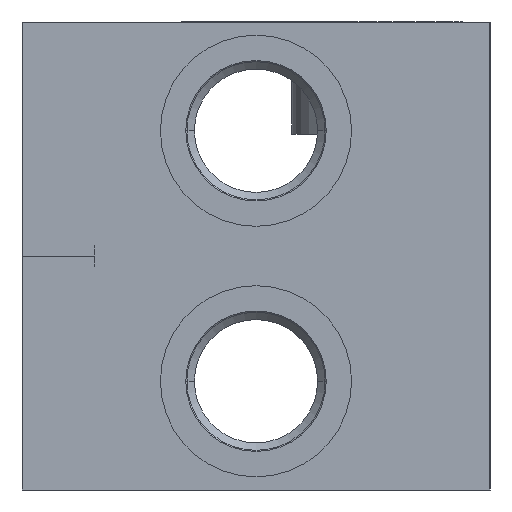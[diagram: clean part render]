
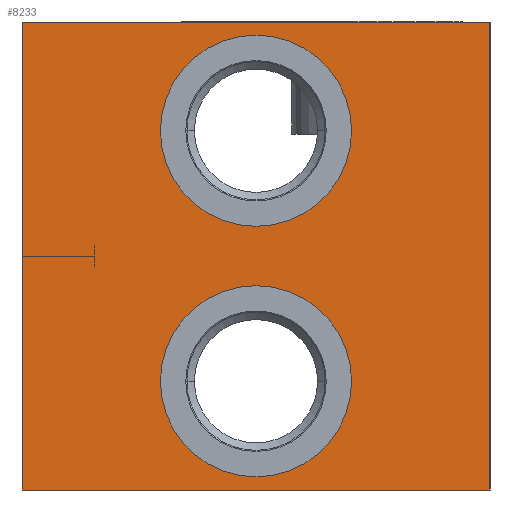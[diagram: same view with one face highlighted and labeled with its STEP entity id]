
A CAD part, left-side view. The second image highlights one B-rep face of the part: STEP entity #8233.
In plain terms, the highlighted planar face has unit normal (-1, 0, 0).
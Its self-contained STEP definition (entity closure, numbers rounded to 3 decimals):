
#30=DIRECTION('',(0.,-1.,0.));
#31=VECTOR('',#30,71.);
#32=CARTESIAN_POINT('',(0.,71.,0.));
#33=LINE('',#32,#31);
#275=DIRECTION('',(0.,0.,-1.));
#276=VECTOR('',#275,71.);
#277=CARTESIAN_POINT('',(0.,0.,0.));
#278=LINE('',#277,#276);
#1742=DIRECTION('',(0.,0.,-1.));
#1743=VECTOR('',#1742,71.);
#1744=CARTESIAN_POINT('',(0.,71.,0.));
#1745=LINE('',#1744,#1743);
#1749=CARTESIAN_POINT('',(0.,35.5,-54.5));
#1750=DIRECTION('',(1.,0.,0.));
#1751=DIRECTION('',(0.,-1.,0.));
#1752=AXIS2_PLACEMENT_3D('',#1749,#1750,#1751);
#1757=CARTESIAN_POINT('',(0.,35.5,-54.5));
#1758=DIRECTION('',(1.,0.,0.));
#1759=DIRECTION('',(0.,1.,0.));
#1760=AXIS2_PLACEMENT_3D('',#1757,#1758,#1759);
#1765=CARTESIAN_POINT('',(0.,35.5,-16.5));
#1766=DIRECTION('',(1.,0.,0.));
#1767=DIRECTION('',(0.,-1.,0.));
#1768=AXIS2_PLACEMENT_3D('',#1765,#1766,#1767);
#1773=CARTESIAN_POINT('',(0.,35.5,-16.5));
#1774=DIRECTION('',(1.,0.,0.));
#1775=DIRECTION('',(0.,1.,0.));
#1776=AXIS2_PLACEMENT_3D('',#1773,#1774,#1775);
#1802=DIRECTION('',(0.,-1.,0.));
#1803=VECTOR('',#1802,71.);
#1804=CARTESIAN_POINT('',(0.,71.,-71.));
#1805=LINE('',#1804,#1803);
#6920=CARTESIAN_POINT('',(0.,0.,0.));
#6922=VERTEX_POINT('',#6920);
#6926=CARTESIAN_POINT('',(0.,71.,0.));
#6927=VERTEX_POINT('',#6926);
#6928=CARTESIAN_POINT('',(0.,0.,-71.));
#6930=VERTEX_POINT('',#6928);
#6934=CARTESIAN_POINT('',(0.,71.,-71.));
#6935=VERTEX_POINT('',#6934);
#6964=CARTESIAN_POINT('',(0.,21.,-54.5));
#6965=CARTESIAN_POINT('',(0.,50.,-54.5));
#6966=VERTEX_POINT('',#6964);
#6967=VERTEX_POINT('',#6965);
#6980=CARTESIAN_POINT('',(0.,21.,-16.5));
#6981=CARTESIAN_POINT('',(0.,50.,-16.5));
#6982=VERTEX_POINT('',#6980);
#6983=VERTEX_POINT('',#6981);
#8209=CARTESIAN_POINT('',(0.,71.,0.));
#8210=DIRECTION('',(-1.,0.,0.));
#8211=DIRECTION('',(0.,-1.,0.));
#8212=AXIS2_PLACEMENT_3D('',#8209,#8210,#8211);
#8213=PLANE('',#8212);
#8214=ORIENTED_EDGE('',*,*,#7739,.T.);
#8215=ORIENTED_EDGE('',*,*,#7849,.T.);
#8217=ORIENTED_EDGE('',*,*,#8216,.F.);
#8218=ORIENTED_EDGE('',*,*,#7936,.F.);
#8219=EDGE_LOOP('',(#8214,#8215,#8217,#8218));
#8220=FACE_OUTER_BOUND('',#8219,.F.);
#8222=ORIENTED_EDGE('',*,*,#8221,.F.);
#8224=ORIENTED_EDGE('',*,*,#8223,.F.);
#8225=EDGE_LOOP('',(#8222,#8224));
#8226=FACE_BOUND('',#8225,.F.);
#8228=ORIENTED_EDGE('',*,*,#8227,.F.);
#8230=ORIENTED_EDGE('',*,*,#8229,.F.);
#8231=EDGE_LOOP('',(#8228,#8230));
#8232=FACE_BOUND('',#8231,.F.);
#1753=CIRCLE('',#1752,14.5);
#1761=CIRCLE('',#1760,14.5);
#1769=CIRCLE('',#1768,14.5);
#1777=CIRCLE('',#1776,14.5);
#7739=EDGE_CURVE('',#6927,#6922,#33,.T.);
#7849=EDGE_CURVE('',#6922,#6930,#278,.T.);
#7936=EDGE_CURVE('',#6927,#6935,#1745,.T.);
#8216=EDGE_CURVE('',#6935,#6930,#1805,.T.);
#8221=EDGE_CURVE('',#6966,#6967,#1753,.T.);
#8223=EDGE_CURVE('',#6967,#6966,#1761,.T.);
#8227=EDGE_CURVE('',#6982,#6983,#1769,.T.);
#8229=EDGE_CURVE('',#6983,#6982,#1777,.T.);
#8233=ADVANCED_FACE('',(#8220,#8226,#8232),#8213,.T.);
